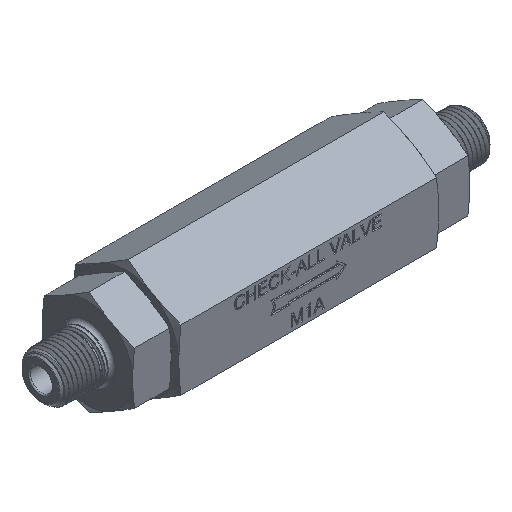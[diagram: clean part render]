
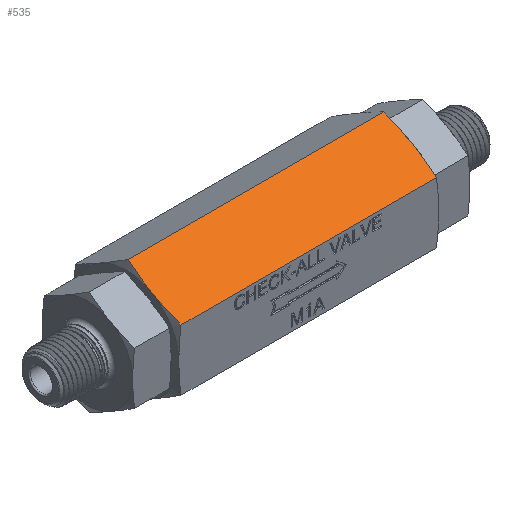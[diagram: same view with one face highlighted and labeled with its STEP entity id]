
A CAD part, isometric view. The second image highlights one B-rep face of the part: STEP entity #535.
In plain terms, the highlighted planar face has unit normal (0, -0.5, 0.866).
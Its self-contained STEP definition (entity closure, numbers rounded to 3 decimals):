
#535 = ADVANCED_FACE( '', ( #1382 ), #1383, .F. );
#1382 = FACE_OUTER_BOUND( '', #6550, .T. );
#1383 = PLANE( '', #6551 );
#6550 = EDGE_LOOP( '', ( #30684, #30685, #30686, #30687, #30688, #30689 ) );
#6551 = AXIS2_PLACEMENT_3D( '', #30690, #30691, #30692 );
#30684 = ORIENTED_EDGE( '', *, *, #33901, .F. );
#30685 = ORIENTED_EDGE( '', *, *, #33675, .T. );
#30686 = ORIENTED_EDGE( '', *, *, #33902, .T. );
#30687 = ORIENTED_EDGE( '', *, *, #33903, .T. );
#30688 = ORIENTED_EDGE( '', *, *, #33904, .F. );
#30689 = ORIENTED_EDGE( '', *, *, #33905, .F. );
#30690 = CARTESIAN_POINT( '', ( 72.796, 0., 12.832 ) );
#30691 = DIRECTION( '', ( 0., 0.5, -0.866 ) );
#30692 = DIRECTION( '', ( -1., 0., 0. ) );
#33675 = EDGE_CURVE( '', #35084, #35082, #35085, .T. );
#33901 = EDGE_CURVE( '', #35084, #35464, #35465, .T. );
#33902 = EDGE_CURVE( '', #35082, #35466, #35467, .T. );
#33903 = EDGE_CURVE( '', #35466, #35468, #35469, .T. );
#33904 = EDGE_CURVE( '', #35470, #35468, #35471, .T. );
#33905 = EDGE_CURVE( '', #35464, #35470, #35472, .T. );
#35082 = VERTEX_POINT( '', #37247 );
#35084 = VERTEX_POINT( '', #37249 );
#35085 = B_SPLINE_CURVE_WITH_KNOTS( '', 3, ( #37250, #37251, #37252, #37253, #37254, #37255 ), .UNSPECIFIED., .F., .F., ( 4, 2, 4 ), ( 0., 0.003, 0.006 ), .UNSPECIFIED. );
#35464 = VERTEX_POINT( '', #39514 );
#35465 = LINE( '', #39515, #39516 );
#35466 = VERTEX_POINT( '', #39517 );
#35467 = B_SPLINE_CURVE_WITH_KNOTS( '', 3, ( #39518, #39519, #39520, #39521, #39522, #39523 ), .UNSPECIFIED., .F., .F., ( 4, 2, 4 ), ( 0., 0.003, 0.006 ), .UNSPECIFIED. );
#35468 = VERTEX_POINT( '', #39524 );
#35469 = LINE( '', #39525, #39526 );
#35470 = VERTEX_POINT( '', #39527 );
#35471 = B_SPLINE_CURVE_WITH_KNOTS( '', 3, ( #39528, #39529, #39530, #39531, #39532, #39533 ), .UNSPECIFIED., .F., .F., ( 4, 2, 4 ), ( 0., 0.003, 0.006 ), .UNSPECIFIED. );
#35472 = B_SPLINE_CURVE_WITH_KNOTS( '', 3, ( #39534, #39535, #39536, #39537, #39538, #39539 ), .UNSPECIFIED., .F., .F., ( 4, 2, 4 ), ( 0., 0.003, 0.006 ), .UNSPECIFIED. );
#37247 = CARTESIAN_POINT( '', ( 72.796, -5.556, 9.624 ) );
#37249 = CARTESIAN_POINT( '', ( 72.336, -11.113, 6.416 ) );
#37250 = CARTESIAN_POINT( '', ( 72.336, -11.113, 6.416 ) );
#37251 = CARTESIAN_POINT( '', ( 72.478, -10.191, 6.948 ) );
#37252 = CARTESIAN_POINT( '', ( 72.595, -9.267, 7.481 ) );
#37253 = CARTESIAN_POINT( '', ( 72.754, -7.415, 8.55 ) );
#37254 = CARTESIAN_POINT( '', ( 72.796, -6.487, 9.086 ) );
#37255 = CARTESIAN_POINT( '', ( 72.796, -5.556, 9.624 ) );
#39514 = CARTESIAN_POINT( '', ( 18.495, -11.113, 6.416 ) );
#39515 = CARTESIAN_POINT( '', ( 72.796, -11.113, 6.416 ) );
#39516 = VECTOR( '', #49520, 1000. );
#39517 = CARTESIAN_POINT( '', ( 72.336, 0., 12.832 ) );
#39518 = CARTESIAN_POINT( '', ( 72.796, -5.556, 9.624 ) );
#39519 = CARTESIAN_POINT( '', ( 72.796, -4.625, 10.161 ) );
#39520 = CARTESIAN_POINT( '', ( 72.754, -3.697, 10.697 ) );
#39521 = CARTESIAN_POINT( '', ( 72.595, -1.846, 11.766 ) );
#39522 = CARTESIAN_POINT( '', ( 72.478, -0.922, 12.299 ) );
#39523 = CARTESIAN_POINT( '', ( 72.336, 0., 12.832 ) );
#39524 = CARTESIAN_POINT( '', ( 18.495, 0., 12.832 ) );
#39525 = CARTESIAN_POINT( '', ( 72.796, 0., 12.832 ) );
#39526 = VECTOR( '', #49521, 1000. );
#39527 = CARTESIAN_POINT( '', ( 18.034, -5.556, 9.624 ) );
#39528 = CARTESIAN_POINT( '', ( 18.034, -5.556, 9.624 ) );
#39529 = CARTESIAN_POINT( '', ( 18.034, -4.625, 10.161 ) );
#39530 = CARTESIAN_POINT( '', ( 18.077, -3.697, 10.697 ) );
#39531 = CARTESIAN_POINT( '', ( 18.236, -1.846, 11.766 ) );
#39532 = CARTESIAN_POINT( '', ( 18.352, -0.922, 12.299 ) );
#39533 = CARTESIAN_POINT( '', ( 18.495, 0., 12.832 ) );
#39534 = CARTESIAN_POINT( '', ( 18.495, -11.113, 6.416 ) );
#39535 = CARTESIAN_POINT( '', ( 18.352, -10.191, 6.948 ) );
#39536 = CARTESIAN_POINT( '', ( 18.236, -9.267, 7.481 ) );
#39537 = CARTESIAN_POINT( '', ( 18.077, -7.415, 8.55 ) );
#39538 = CARTESIAN_POINT( '', ( 18.034, -6.487, 9.086 ) );
#39539 = CARTESIAN_POINT( '', ( 18.034, -5.556, 9.624 ) );
#49520 = DIRECTION( '', ( -1., 0., 0. ) );
#49521 = DIRECTION( '', ( -1., 0., 0. ) );
